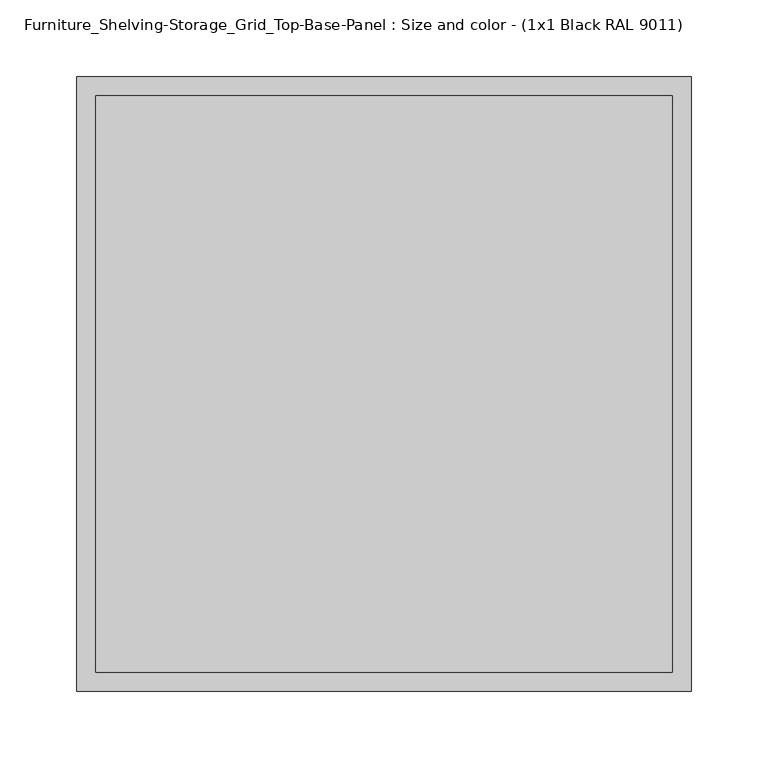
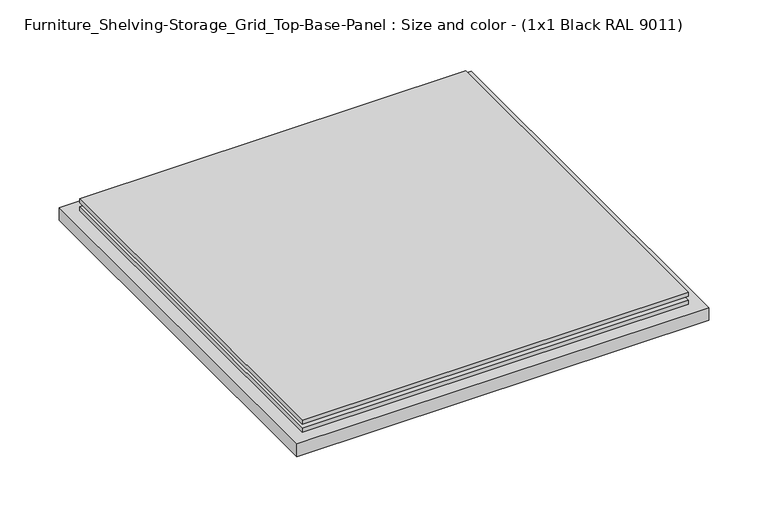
"""IFC4 building model written with IfcOpenShell, lengths in millimetres: furniture geometry, Furniture_Shelving-Storage_Grid_Top-Base-Panel : Size and color - (1x1 Black RAL 9011)."""

from ifc_helpers import new_model, si_unit, origin, place, context, project, spatial, faceted_brep, source, transform, mapped, element, save


def furniture_shelving_storage_grid_top_base_panel_size_and_cf4f366d(model_context):
    return source(origin(), model_context, "Body", "Brep", [
        faceted_brep([(200.499622, -200.4995459, 13.0), (200.499622, 200.5004541, 13.0), (-200.500378, 200.5004541, 13.0), (-200.500378, -200.4995459, 13.0), (187.999622, -187.9995459, 13.0), (-188.000378, -187.9995459, 13.0), (-188.000378, 188.0004541, 13.0), (187.999622, 188.0004541, 13.0), (200.499622, -200.4995459, 0.0), (-200.500378, -200.4995459, 0.0), (-200.500378, 200.5004541, 0.0), (200.499622, 200.5004541, 0.0), (-176.000378, -175.9995459, 17.25), (-176.000378, -175.9995459, 21.25), (-176.000378, 176.0004541, 21.25), (-176.000378, 176.0004541, 17.25), (-188.000378, -187.9995459, 21.25), (-188.000378, 188.0004541, 21.25), (187.999622, 188.0004541, 21.25), (187.999622, -187.9995459, 21.25), (175.999622, -175.9995459, 21.25), (175.999622, 176.0004541, 21.25), (-188.000378, 188.0004541, 17.25), (-188.000378, -187.9995459, 17.25), (175.999622, -175.9995459, 17.25), (175.999622, 176.0004541, 17.25), (187.999622, -187.9995459, 17.25), (187.999622, 188.0004541, 17.25), (-188.000378, -187.9995459, 25.5), (-188.000378, 188.0004541, 25.5), (187.999622, -187.9995459, 25.5), (187.999622, 188.0004541, 25.5)], [[[0, 1, 2, 3], [4, 5, 6, 7]], [[8, 9, 10, 11]], [[9, 8, 0, 3]], [[10, 9, 3, 2]], [[11, 10, 2, 1]], [[8, 11, 1, 0]], [[12, 13, 14, 15]], [[16, 17, 18, 19], [20, 21, 14, 13]], [[22, 6, 5, 23]], [[13, 12, 24, 20]], [[20, 24, 25, 21]], [[23, 5, 4, 26]], [[15, 14, 21, 25]], [[26, 4, 7, 27]], [[22, 23, 26, 27], [24, 12, 15, 25]], [[16, 28, 29, 17]], [[27, 7, 6, 22]], [[30, 31, 29, 28]], [[17, 29, 31, 18]], [[19, 30, 28, 16]], [[18, 31, 30, 19]]]),
    ])


if __name__ == "__main__":
    model = new_model("IFC4")
    model_context = context("Model", 3, world=origin())
    ifc_project = project(units=[si_unit("LENGTHUNIT", "METRE", prefix="MILLI")], contexts=[model_context])
    site = spatial("IfcSite", under=ifc_project)
    building = spatial("IfcBuilding", under=site)
    placement = place(None, origin())
    furniture_shelving_storage_grid_top_base_panel_size_and_shape = furniture_shelving_storage_grid_top_base_panel_size_and_cf4f366d(model_context)
    element("IfcFurniture", 1, ObjectType="Furniture_Shelving-Storage_Grid_Top-Base-Panel : Size and color - (1x1 Black RAL 9011)", at=placement, inside=building, context=model_context, shape_type="MappedRepresentation", body=[
        mapped(furniture_shelving_storage_grid_top_base_panel_size_and_shape, transform((0.0, 0.0, 0.0), x_axis=(1.0, 0.0, 0.0), y_axis=(0.0, 1.0, 0.0), z_axis=(0.0, 0.0, 1.0))),
    ])
    save(model, "model.ifc")
